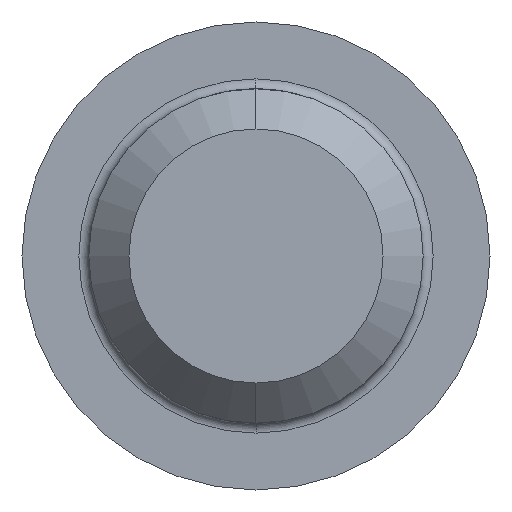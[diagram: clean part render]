
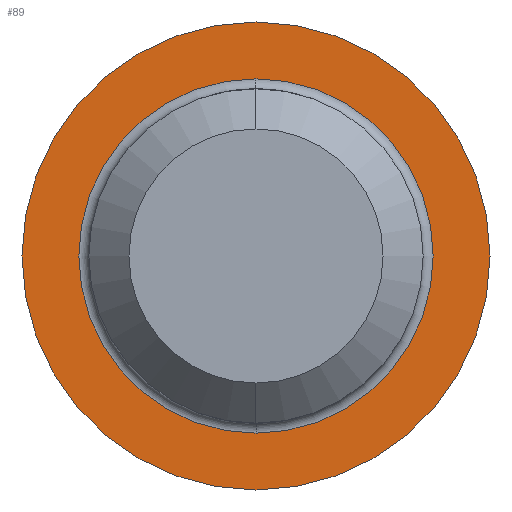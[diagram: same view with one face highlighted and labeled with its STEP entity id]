
A CAD part, left-side view. The second image highlights one B-rep face of the part: STEP entity #89.
In plain terms, the highlighted planar face has unit normal (-1, 0, 0).
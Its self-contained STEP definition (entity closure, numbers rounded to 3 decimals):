
#53 = EDGE_CURVE ( 'NONE', #65, #68, #425, .T. ) ;
#65 = VERTEX_POINT ( 'NONE', #319 ) ;
#68 = VERTEX_POINT ( 'NONE', #321 ) ;
#89 = ADVANCED_FACE ( 'NONE', ( #367, #361 ), #386, .F. ) ;
#90 = ORIENTED_EDGE ( 'NONE', *, *, #53, .T. ) ;
#102 = ORIENTED_EDGE ( 'NONE', *, *, #117, .T. ) ;
#117 = EDGE_CURVE ( 'NONE', #158, #121, #236, .T. ) ;
#121 = VERTEX_POINT ( 'NONE', #224 ) ;
#126 = EDGE_CURVE ( 'NONE', #121, #158, #241, .T. ) ;
#140 = ORIENTED_EDGE ( 'NONE', *, *, #126, .T. ) ;
#158 = VERTEX_POINT ( 'NONE', #455 ) ;
#159 = ORIENTED_EDGE ( 'NONE', *, *, #160, .T. ) ;
#160 = EDGE_CURVE ( 'NONE', #68, #65, #452, .T. ) ;
#162 = EDGE_LOOP ( 'NONE', ( #102, #140 ) ) ;
#195 = EDGE_LOOP ( 'NONE', ( #159, #90 ) ) ;
#224 = CARTESIAN_POINT ( 'NONE',  ( 0., 0., -7. ) ) ;
#232 = AXIS2_PLACEMENT_3D ( 'NONE', #279, #256, #262 ) ;
#236 = CIRCLE ( 'NONE', #232, 7. ) ;
#240 = AXIS2_PLACEMENT_3D ( 'NONE', #286, #288, #257 ) ;
#241 = CIRCLE ( 'NONE', #240, 7. ) ;
#256 = DIRECTION ( 'NONE',  ( -1., 0., 0. ) ) ;
#257 = DIRECTION ( 'NONE',  ( 0., 0., 1. ) ) ;
#262 = DIRECTION ( 'NONE',  ( 0., 0., 1. ) ) ;
#279 = CARTESIAN_POINT ( 'NONE',  ( 0., 0., 0. ) ) ;
#286 = CARTESIAN_POINT ( 'NONE',  ( 0., 0., 0. ) ) ;
#288 = DIRECTION ( 'NONE',  ( -1., 0., 0. ) ) ;
#310 = DIRECTION ( 'NONE',  ( 0., 0., -1. ) ) ;
#311 = DIRECTION ( 'NONE',  ( 1., 0., 0. ) ) ;
#312 = CARTESIAN_POINT ( 'NONE',  ( 0., 0., 0. ) ) ;
#313 = AXIS2_PLACEMENT_3D ( 'NONE', #312, #311, #310 ) ;
#319 = CARTESIAN_POINT ( 'NONE',  ( 0., 0., 5.3 ) ) ;
#321 = CARTESIAN_POINT ( 'NONE',  ( 0., 0., -5.3 ) ) ;
#339 = DIRECTION ( 'NONE',  ( 0., 0., -1. ) ) ;
#340 = DIRECTION ( 'NONE',  ( 1., 0., 0. ) ) ;
#341 = CARTESIAN_POINT ( 'NONE',  ( 0., 7., 0. ) ) ;
#342 = AXIS2_PLACEMENT_3D ( 'NONE', #341, #340, #339 ) ;
#361 = FACE_OUTER_BOUND ( 'NONE', #162, .T. ) ;
#367 = FACE_BOUND ( 'NONE', #195, .T. ) ;
#386 = PLANE ( 'NONE',  #342 ) ;
#425 = CIRCLE ( 'NONE', #313, 5.3 ) ;
#451 = DIRECTION ( 'NONE',  ( 1., 0., 0. ) ) ;
#452 = CIRCLE ( 'NONE', #469, 5.3 ) ;
#454 = CARTESIAN_POINT ( 'NONE',  ( 0., 0., 0. ) ) ;
#455 = CARTESIAN_POINT ( 'NONE',  ( 0., 0., 7. ) ) ;
#469 = AXIS2_PLACEMENT_3D ( 'NONE', #454, #451, #547 ) ;
#547 = DIRECTION ( 'NONE',  ( 0., 0., -1. ) ) ;
